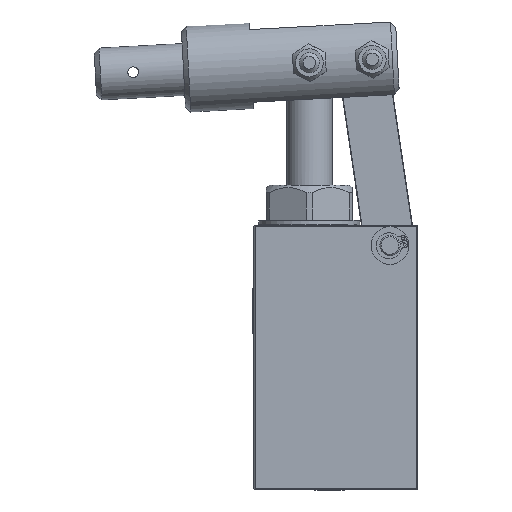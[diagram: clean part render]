
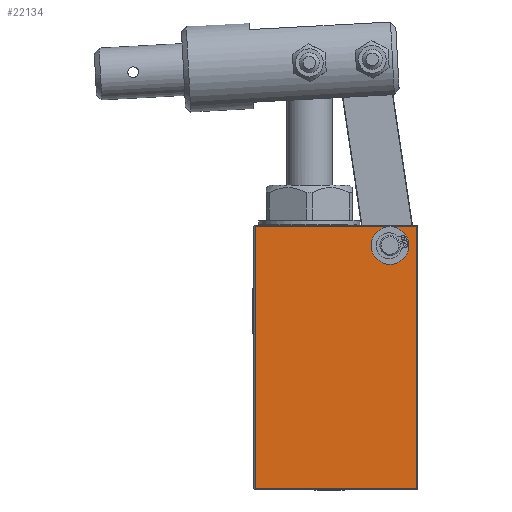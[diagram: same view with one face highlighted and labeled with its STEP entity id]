
A CAD part, left-side view. The second image highlights one B-rep face of the part: STEP entity #22134.
In plain terms, the highlighted planar face has unit normal (-1, 0, 0).
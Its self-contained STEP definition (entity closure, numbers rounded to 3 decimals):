
#21977=CARTESIAN_POINT('',(-32.5,-21.5,104.5));
#21978=VERTEX_POINT('',#21977);
#21979=CARTESIAN_POINT('',(-32.5,-21.5,97.0));
#21980=DIRECTION('',(1.0,0.0,0.0));
#21981=DIRECTION('',(0.0,0.0,-1.0));
#21982=AXIS2_PLACEMENT_3D('',#21979,#21980,#21981);
#21983=CIRCLE('',#21982,7.5);
#21984=EDGE_CURVE('',#21978,#21978,#21983,.T.);
#22088=CARTESIAN_POINT('',(-32.5,-32.5,0.0));
#22089=DIRECTION('',(-1.0,0.0,0.0));
#22090=DIRECTION('',(0.0,0.0,1.0));
#22091=AXIS2_PLACEMENT_3D('',#22088,#22089,#22090);
#22092=PLANE('',#22091);
#22093=CARTESIAN_POINT('',(-32.5,-32.,0.5));
#22094=VERTEX_POINT('',#22093);
#22095=CARTESIAN_POINT('',(-32.5,32.,0.5));
#22096=VERTEX_POINT('',#22095);
#22097=CARTESIAN_POINT('',(-32.5,-32.,0.5));
#22098=DIRECTION('',(0.0,1.0,0.0));
#22099=VECTOR('',#22098,64.0);
#22100=LINE('',#22097,#22099);
#22101=EDGE_CURVE('',#22094,#22096,#22100,.T.);
#22102=ORIENTED_EDGE('',*,*,#22101,.F.);
#22103=CARTESIAN_POINT('',(-32.5,-32.,104.5));
#22104=VERTEX_POINT('',#22103);
#22105=CARTESIAN_POINT('',(-32.5,-32.,104.5));
#22106=DIRECTION('',(0.0,0.0,-1.0));
#22107=VECTOR('',#22106,104.0);
#22108=LINE('',#22105,#22107);
#22109=EDGE_CURVE('',#22104,#22094,#22108,.T.);
#22110=ORIENTED_EDGE('',*,*,#22109,.F.);
#22111=CARTESIAN_POINT('',(-32.5,-21.5,104.5));
#22112=DIRECTION('',(0.0,-1.0,0.0));
#22113=VECTOR('',#22112,10.5);
#22114=LINE('',#22111,#22113);
#22115=EDGE_CURVE('',#21978,#22104,#22114,.T.);
#22116=ORIENTED_EDGE('',*,*,#22115,.F.);
#22117=ORIENTED_EDGE('',*,*,#21984,.T.);
#22118=CARTESIAN_POINT('',(-32.5,32.,104.5));
#22119=VERTEX_POINT('',#22118);
#22120=CARTESIAN_POINT('',(-32.5,32.0,104.5));
#22121=DIRECTION('',(0.0,-1.0,0.0));
#22122=VECTOR('',#22121,53.5);
#22123=LINE('',#22120,#22122);
#22124=EDGE_CURVE('',#22119,#21978,#22123,.T.);
#22125=ORIENTED_EDGE('',*,*,#22124,.F.);
#22126=CARTESIAN_POINT('',(-32.5,32.,0.5));
#22127=DIRECTION('',(0.0,0.0,1.0));
#22128=VECTOR('',#22127,104.0);
#22129=LINE('',#22126,#22128);
#22130=EDGE_CURVE('',#22096,#22119,#22129,.T.);
#22131=ORIENTED_EDGE('',*,*,#22130,.F.);
#22132=EDGE_LOOP('',(#22102,#22110,#22116,#22117,#22125,#22131));
#22133=FACE_OUTER_BOUND('',#22132,.T.);
#22134=ADVANCED_FACE('',(#22133),#22092,.T.);
